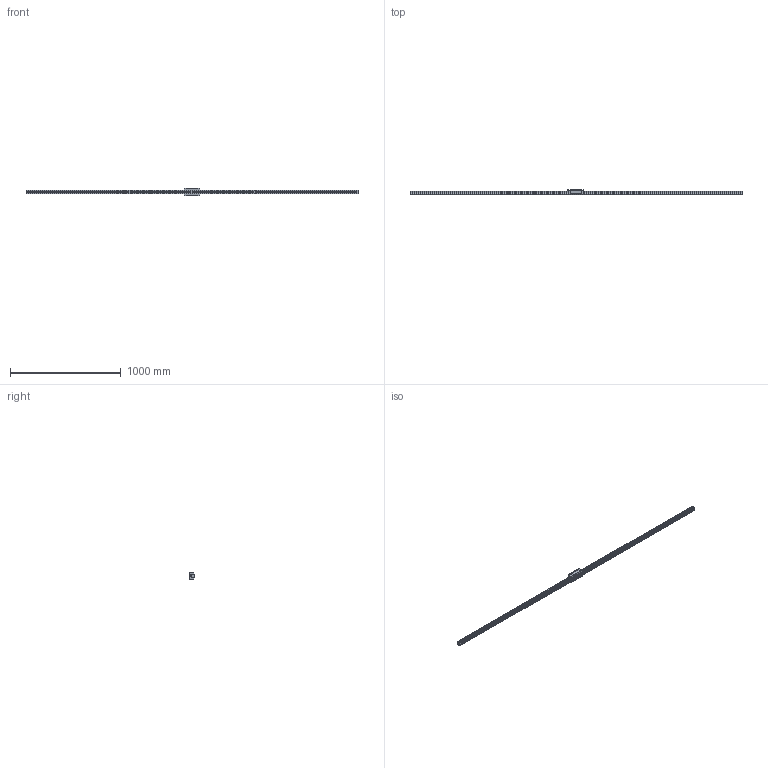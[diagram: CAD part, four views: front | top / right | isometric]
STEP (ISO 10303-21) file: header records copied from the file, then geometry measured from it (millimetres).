
FILE_DESCRIPTION(/* description */ ('STEP AP214'),/* implementation_level */ '2;1');
FILE_NAME(/* name */ 'HDR35LV1SS-3000L_G20_0_B-M6F_1430-25_0_0_01',/* time_stamp */ '2023-06-30T13:04:37+02:00',/* author */ ('License CC BY-ND 4.0'),/* organization */ ('CADENAS'),/* preprocessor_version */ 'ST-DEVELOPER v19.3',/* originating_system */ 'PARTsolutions',/* authorisation */ ' ');
FILE_SCHEMA (('AUTOMOTIVE_DESIGN {1 0 10303 214 3 1 1}'));
Length unit declared in the file: millimetre
Products named in the file (4): HDR35LV1SS-3000L_G20_0_B-M6F_1430-25_0_0_01; hsr_ftht_B-M6F_grease_nipple_joint; HDR35LVSSB-M6F1 Slider; HDR35LV1300020 Rail
Assembly tree (3 placements, depth 2):
  HDR35LV1SS-3000L_G20_0_B-M6F_1430-25_0_0_01
    hsr_ftht_B-M6F_grease_nipple_joint
    HDR35LVSSB-M6F1 Slider
    HDR35LV1300020 Rail
Bounding box: 3000 x 48 x 70 mm (x, y, z)
Volume: 2795631.2 mm3; surface area: 494559.1 mm2
Topology: 3 solids, 3 shells, 442 faces, 1138 edges, 709 vertices
Faces by surface type: plane 268, cylinder 144, cone 25, sphere 3, torus 2
Full cylindrical faces by diameter (mm): 4.917 x2, 5.2 x4, 6 x1, 6.647 x6, 8 x1, 9 x38, 10 x2, 14 x38
Entity records: 13087 total; most frequent: DIRECTION 2382, CARTESIAN_POINT 2257, ORIENTED_EDGE 2016, EDGE_CURVE 1008, AXIS2_PLACEMENT_3D 952, VERTEX_POINT 703, FACE_BOUND 649, EDGE_LOOP 641
